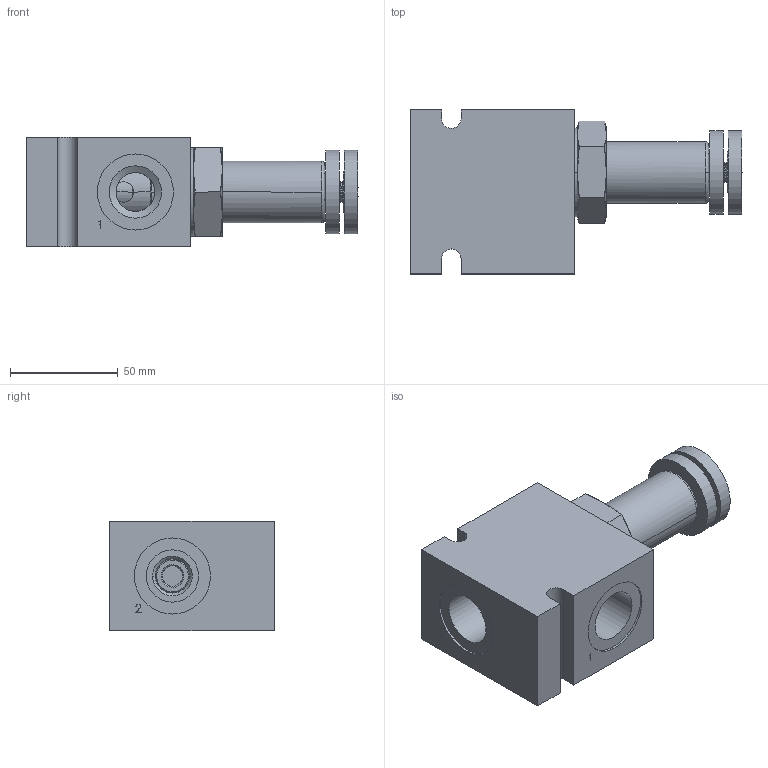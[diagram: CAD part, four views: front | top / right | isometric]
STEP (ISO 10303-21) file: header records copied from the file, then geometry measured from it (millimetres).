
FILE_DESCRIPTION( ( 'Unknown' ), '1' );
FILE_NAME( 'G:/Graphic Design/Graphic Design 2/Data Sheets/PRESSURE CONTROLS/2_STEP/Pilot Operated Relief Valves/D-SJRVR0K-D2.stp', 'Unknown', ( 'Unknown' ), ( 'Unknown' ), 'PSStep 16.0.42', 'Unknown', ' ' );
FILE_SCHEMA( ( 'AUTOMOTIVE_DESIGN { 1 0 10303 214 1 1 1 1 }' ) );
Length unit declared in the file: millimetre
Products named in the file (12): SJRVR0K; SJRVR0K-3D Full2; SJRVR0K-3D Full3; SJRVR0K-3D Full4; SJRVR0K-3D Full5; SJRVR0K-3D Full6; SJRVR0K-3D Full1; Assem1; B-DSJD2
Assembly tree (11 placements, depth 3):
  Assem1
    B-DSJD2
    SJRVR0K
      SJRVR0K-3D Full2
      SJRVR0K-3D Full3
      SJRVR0K-3D Full4
      SJRVR0K-3D Full5
      SJRVR0K-3D Full6
      SJRVR0K-3D Full1
      SJRVR0K-3D Full1
      SJRVR0K-3D Full1
      SJRVR0K-3D Full1
Bounding box: 154.19 x 76.2 x 50.8 mm (x, y, z)
Surface area: 62608 mm2 (no closed solid volume)
Topology: 0 solids, 316 shells, 316 faces, 1384 edges, 1347 vertices
Faces by surface type: cone 138, plane 103, cylinder 66, torus 9
Full cylindrical faces by diameter (mm): 0.2 x2, 9.525 x2, 18 x1, 19.05 x2, 24.232 x1, 24.3 x4, 25.4 x1, 28.448 x1, 28.651 x1, 31.806 x2, 35.33 x2, 38.862 x2, 48.514 x1
Entity records: 21248 total; most frequent: CARTESIAN_POINT 8731, DIRECTION 1878, VERTEX_POINT 1334, ORIENTED_EDGE 1332, EDGE_CURVE 1332, AXIS2_PLACEMENT_3D 699, B_SPLINE_CURVE_WITH_KNOTS 482, LINE 480
